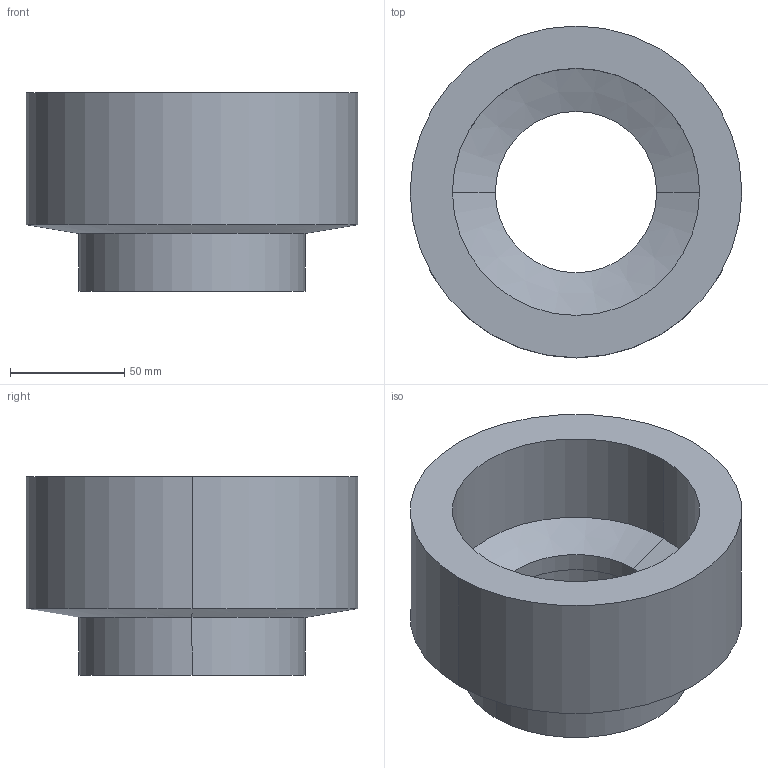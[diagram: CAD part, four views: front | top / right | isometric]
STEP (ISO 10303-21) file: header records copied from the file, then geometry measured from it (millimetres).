
FILE_DESCRIPTION (( 'STEP AP203' ), '1' );
FILE_NAME ('PMR26 FADO.STEP', '2022-08-23T11:00:33', ( '' ), ( '' ), 'SwSTEP 2.0', 'SolidWorks 2021', '' );
FILE_SCHEMA (( 'CONFIG_CONTROL_DESIGN' ));
Length unit declared in the file: millimetre
Products named in the file (1): PMR26 FADO
Bounding box: 145 x 145 x 86.85 mm (x, y, z)
Volume: 605598.9 mm3; surface area: 82773.2 mm2
Topology: 1 solids, 1 shells, 17 faces, 34 edges, 20 vertices
Faces by surface type: cylinder 10, cone 4, plane 3
Entity records: 525 total; most frequent: DIRECTION 90, CARTESIAN_POINT 72, ORIENTED_EDGE 68, AXIS2_PLACEMENT_3D 38, EDGE_CURVE 34, VERTEX_POINT 20, EDGE_LOOP 20, CIRCLE 20
